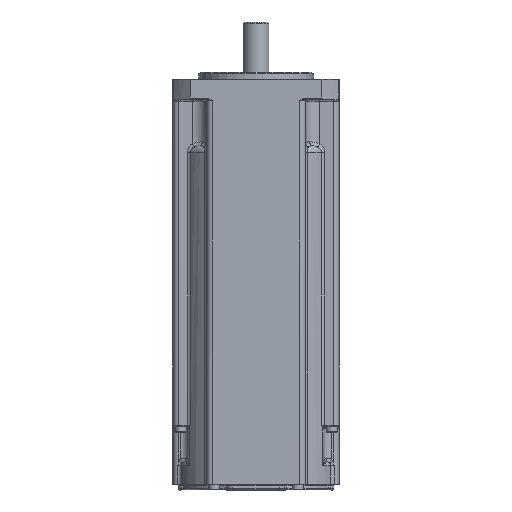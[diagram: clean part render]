
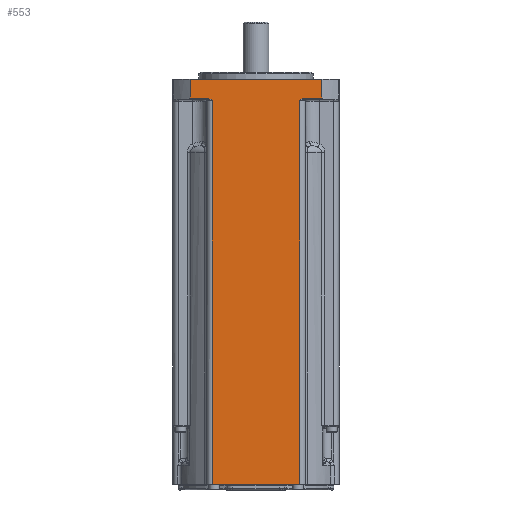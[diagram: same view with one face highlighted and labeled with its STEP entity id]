
A CAD part, front view. The second image highlights one B-rep face of the part: STEP entity #553.
In plain terms, the highlighted planar face has unit normal (0, -1, 0).
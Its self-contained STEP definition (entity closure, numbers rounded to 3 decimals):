
#445 = EDGE_CURVE ( 'NONE', #446, #447, #5060, .T. ) ;
#446 = VERTEX_POINT ( 'NONE', #5051 ) ;
#447 = VERTEX_POINT ( 'NONE', #5050 ) ;
#448 = ORIENTED_EDGE ( 'NONE', *, *, #449, .T. ) ;
#449 = EDGE_CURVE ( 'NONE', #447, #450, #5019, .T. ) ;
#450 = VERTEX_POINT ( 'NONE', #5015 ) ;
#451 = ORIENTED_EDGE ( 'NONE', *, *, #537, .T. ) ;
#452 = EDGE_CURVE ( 'NONE', #547, #3130, #5014, .T. ) ;
#453 = ORIENTED_EDGE ( 'NONE', *, *, #3129, .F. ) ;
#454 = ORIENTED_EDGE ( 'NONE', *, *, #523, .T. ) ;
#523 = EDGE_CURVE ( 'NONE', #3127, #524, #5586, .T. ) ;
#524 = VERTEX_POINT ( 'NONE', #5582 ) ;
#525 = ORIENTED_EDGE ( 'NONE', *, *, #526, .T. ) ;
#526 = EDGE_CURVE ( 'NONE', #524, #446, #5580, .T. ) ;
#537 = EDGE_CURVE ( 'NONE', #450, #538, #16150, .T. ) ;
#538 = VERTEX_POINT ( 'NONE', #16146 ) ;
#539 = ORIENTED_EDGE ( 'NONE', *, *, #540, .T. ) ;
#540 = EDGE_CURVE ( 'NONE', #538, #541, #16280, .T. ) ;
#541 = VERTEX_POINT ( 'NONE', #16276 ) ;
#542 = ORIENTED_EDGE ( 'NONE', *, *, #543, .T. ) ;
#543 = EDGE_CURVE ( 'NONE', #541, #544, #16252, .T. ) ;
#544 = VERTEX_POINT ( 'NONE', #16246 ) ;
#545 = ORIENTED_EDGE ( 'NONE', *, *, #546, .T. ) ;
#546 = EDGE_CURVE ( 'NONE', #544, #547, #16177, .T. ) ;
#547 = VERTEX_POINT ( 'NONE', #16176 ) ;
#548 = ORIENTED_EDGE ( 'NONE', *, *, #452, .T. ) ;
#553 = ADVANCED_FACE ( 'NONE', ( #16159 ), #16167, .T. ) ;
#554 = EDGE_LOOP ( 'NONE', ( #555, #448, #451, #539, #542, #545, #548, #453, #454, #525 ) ) ;
#555 = ORIENTED_EDGE ( 'NONE', *, *, #445, .T. ) ;
#3127 = VERTEX_POINT ( 'NONE', #12930 ) ;
#3129 = EDGE_CURVE ( 'NONE', #3127, #3130, #12929, .T. ) ;
#3130 = VERTEX_POINT ( 'NONE', #12983 ) ;
#5011 = DIRECTION ( 'NONE',  ( 0., 0., -1. ) ) ;
#5012 = VECTOR ( 'NONE', #5011, 1000. ) ;
#5013 = CARTESIAN_POINT ( 'NONE',  ( -15.232, -29., -142. ) ) ;
#5014 = LINE ( 'NONE', #5013, #5012 ) ;
#5015 = CARTESIAN_POINT ( 'NONE',  ( 22.978, -29., -0.8 ) ) ;
#5016 = DIRECTION ( 'NONE',  ( 0., 0., 1. ) ) ;
#5017 = VECTOR ( 'NONE', #5016, 1000. ) ;
#5018 = CARTESIAN_POINT ( 'NONE',  ( 22.978, -29., 4.953 ) ) ;
#5019 = LINE ( 'NONE', #5018, #5017 ) ;
#5050 = CARTESIAN_POINT ( 'NONE',  ( 22.978, -29., -7.304 ) ) ;
#5051 = CARTESIAN_POINT ( 'NONE',  ( 17.226, -29., -7.304 ) ) ;
#5052 = DIRECTION ( 'NONE',  ( 1., 0., 0. ) ) ;
#5053 = VECTOR ( 'NONE', #5052, 1000. ) ;
#5054 = CARTESIAN_POINT ( 'NONE',  ( 25.277, -29., -7.304 ) ) ;
#5060 = LINE ( 'NONE', #5054, #5053 ) ;
#5569 = CARTESIAN_POINT ( 'NONE',  ( 17.226, -29., -7.304 ) ) ;
#5570 = CARTESIAN_POINT ( 'NONE',  ( 17.035, -29., -7.304 ) ) ;
#5571 = CARTESIAN_POINT ( 'NONE',  ( 16.847, -29., -7.339 ) ) ;
#5572 = CARTESIAN_POINT ( 'NONE',  ( 16.485, -29., -7.454 ) ) ;
#5573 = CARTESIAN_POINT ( 'NONE',  ( 16.315, -29., -7.534 ) ) ;
#5574 = CARTESIAN_POINT ( 'NONE',  ( 15.823, -29., -7.815 ) ) ;
#5575 = CARTESIAN_POINT ( 'NONE',  ( 15.526, -29., -8.056 ) ) ;
#5576 = CARTESIAN_POINT ( 'NONE',  ( 15.232, -29., -8.296 ) ) ;
#5580 = B_SPLINE_CURVE_WITH_KNOTS ( 'NONE', 3,
 ( #5576, #5575, #5574, #5573, #5572, #5571, #5570, #5569 ),
 .UNSPECIFIED., .F., .F.,
 ( 4, 2, 2, 4 ),
 ( 0., 0.001, 0.002, 0.002 ),
 .UNSPECIFIED. ) ;
#5582 = CARTESIAN_POINT ( 'NONE',  ( 15.232, -29., -8.296 ) ) ;
#5583 = DIRECTION ( 'NONE',  ( 0., 0., 1. ) ) ;
#5584 = VECTOR ( 'NONE', #5583, 1000. ) ;
#5585 = CARTESIAN_POINT ( 'NONE',  ( 15.232, -29., -7.8 ) ) ;
#5586 = LINE ( 'NONE', #5585, #5584 ) ;
#12926 = DIRECTION ( 'NONE',  ( -1., 0., 0. ) ) ;
#12927 = VECTOR ( 'NONE', #12926, 1000. ) ;
#12928 = CARTESIAN_POINT ( 'NONE',  ( -17.215, -29., -142. ) ) ;
#12929 = LINE ( 'NONE', #12928, #12927 ) ;
#12930 = CARTESIAN_POINT ( 'NONE',  ( 15.232, -29., -142. ) ) ;
#12983 = CARTESIAN_POINT ( 'NONE',  ( -15.232, -29., -142. ) ) ;
#16146 = CARTESIAN_POINT ( 'NONE',  ( -22.978, -29., -0.8 ) ) ;
#16147 = DIRECTION ( 'NONE',  ( -1., 0., 0. ) ) ;
#16148 = VECTOR ( 'NONE', #16147, 1000. ) ;
#16149 = CARTESIAN_POINT ( 'NONE',  ( -29., -29., -0.8 ) ) ;
#16150 = LINE ( 'NONE', #16149, #16148 ) ;
#16156 = CARTESIAN_POINT ( 'NONE',  ( -29., -29., -7.8 ) ) ;
#16157 = AXIS2_PLACEMENT_3D ( 'NONE', #16156, #16241, #16239 ) ;
#16159 = FACE_OUTER_BOUND ( 'NONE', #554, .T. ) ;
#16167 = PLANE ( 'NONE',  #16157 ) ;
#16176 = CARTESIAN_POINT ( 'NONE',  ( -15.232, -29., -8.296 ) ) ;
#16177 = B_SPLINE_CURVE_WITH_KNOTS ( 'NONE', 3,
 ( #16335, #16334, #16333, #16264, #16263, #16261, #16260, #16259 ),
 .UNSPECIFIED., .F., .F.,
 ( 4, 2, 2, 4 ),
 ( 0., 0.001, 0.001, 0.002 ),
 .UNSPECIFIED. ) ;
#16239 = DIRECTION ( 'NONE',  ( 1., 0., 0. ) ) ;
#16241 = DIRECTION ( 'NONE',  ( 0., -1., 0. ) ) ;
#16246 = CARTESIAN_POINT ( 'NONE',  ( -17.226, -29., -7.304 ) ) ;
#16248 = DIRECTION ( 'NONE',  ( 1., 0., 0. ) ) ;
#16249 = VECTOR ( 'NONE', #16248, 1000. ) ;
#16251 = CARTESIAN_POINT ( 'NONE',  ( -15.232, -29., -7.304 ) ) ;
#16252 = LINE ( 'NONE', #16251, #16249 ) ;
#16259 = CARTESIAN_POINT ( 'NONE',  ( -15.232, -29., -8.296 ) ) ;
#16260 = CARTESIAN_POINT ( 'NONE',  ( -15.525, -29., -8.056 ) ) ;
#16261 = CARTESIAN_POINT ( 'NONE',  ( -15.823, -29., -7.815 ) ) ;
#16263 = CARTESIAN_POINT ( 'NONE',  ( -16.315, -29., -7.534 ) ) ;
#16264 = CARTESIAN_POINT ( 'NONE',  ( -16.485, -29., -7.454 ) ) ;
#16276 = CARTESIAN_POINT ( 'NONE',  ( -22.978, -29., -7.304 ) ) ;
#16277 = DIRECTION ( 'NONE',  ( 0., 0., -1. ) ) ;
#16278 = VECTOR ( 'NONE', #16277, 1000. ) ;
#16279 = CARTESIAN_POINT ( 'NONE',  ( -22.978, -29., 4.953 ) ) ;
#16280 = LINE ( 'NONE', #16279, #16278 ) ;
#16333 = CARTESIAN_POINT ( 'NONE',  ( -16.847, -29., -7.339 ) ) ;
#16334 = CARTESIAN_POINT ( 'NONE',  ( -17.035, -29., -7.304 ) ) ;
#16335 = CARTESIAN_POINT ( 'NONE',  ( -17.226, -29., -7.304 ) ) ;
